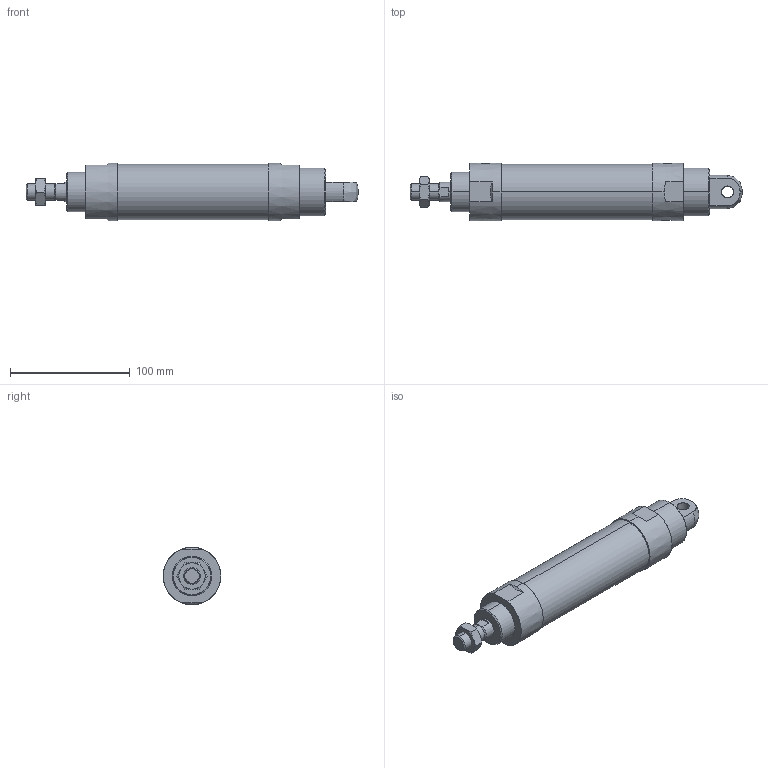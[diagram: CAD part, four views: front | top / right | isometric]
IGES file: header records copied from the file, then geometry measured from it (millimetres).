
Start section: SolidWorks IGES file using analytic representation for surfaces
Global section: file name: C:\Users\Toshiba\Desktop\J#2-40-75-C.IGS; native system: SolidWorks 2014; preprocessor: SolidWorks 2014; author: Toshiba; date: 160308.155533; units: millimetre
Bounding box: 277 x 48 x 48 mm (x, y, z)
Surface area: 40563.2 mm2 (no closed solid volume)
Topology: 0 solids, 0 shells, 81 faces, 1622 edges, 1618 vertices
Faces by surface type: bspline 42, revolution 39
